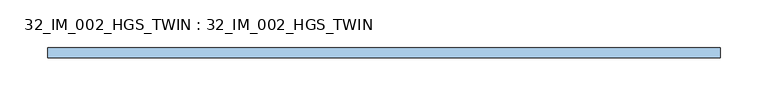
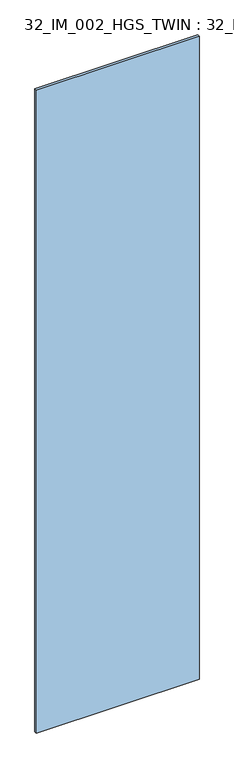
"""IFC4 building model written with IfcOpenShell, lengths in millimetres: window geometry, 32_IM_002_HGS_TWIN : 32_IM_002_HGS_TWIN."""

from ifc_helpers import new_model, si_unit, origin, origin_with_axes, place, context, project, spatial, polyline, outline, extrude, source, transform, mapped, element, save


def window_32_im_002_hgs_twin_32_im_002_hgs_twin_07a8b9dd(model_context):
    return source(origin(), model_context, "Body", "SweptSolid", [
        extrude(outline(polyline([(353.8451567, -5.4), (-353.8451567, -5.4), (-353.8451567, 5.4), (353.8451567, 5.4), (353.8451567, -5.4)])), origin_with_axes(), (0.0, 0.0, 1.0), 2956.0),
    ])


if __name__ == "__main__":
    model = new_model("IFC4")
    model_context = context("Model", 3, world=origin())
    ifc_project = project(units=[si_unit("LENGTHUNIT", "METRE", prefix="MILLI")], contexts=[model_context])
    site = spatial("IfcSite", under=ifc_project)
    building = spatial("IfcBuilding", under=site)
    placement = place(None, origin())
    window_32_im_002_hgs_twin_32_im_002_hgs_twin_shape = window_32_im_002_hgs_twin_32_im_002_hgs_twin_07a8b9dd(model_context)
    element("IfcWindow", 1, ObjectType="32_IM_002_HGS_TWIN : 32_IM_002_HGS_TWIN", at=placement, inside=building, context=model_context, shape_type="MappedRepresentation", body=[
        mapped(window_32_im_002_hgs_twin_32_im_002_hgs_twin_shape, transform((0.0, 0.0, 0.0), x_axis=(1.0, 0.0, 0.0), y_axis=(0.0, 1.0, 0.0), z_axis=(0.0, 0.0, 1.0))),
    ])
    save(model, "model.ifc")
